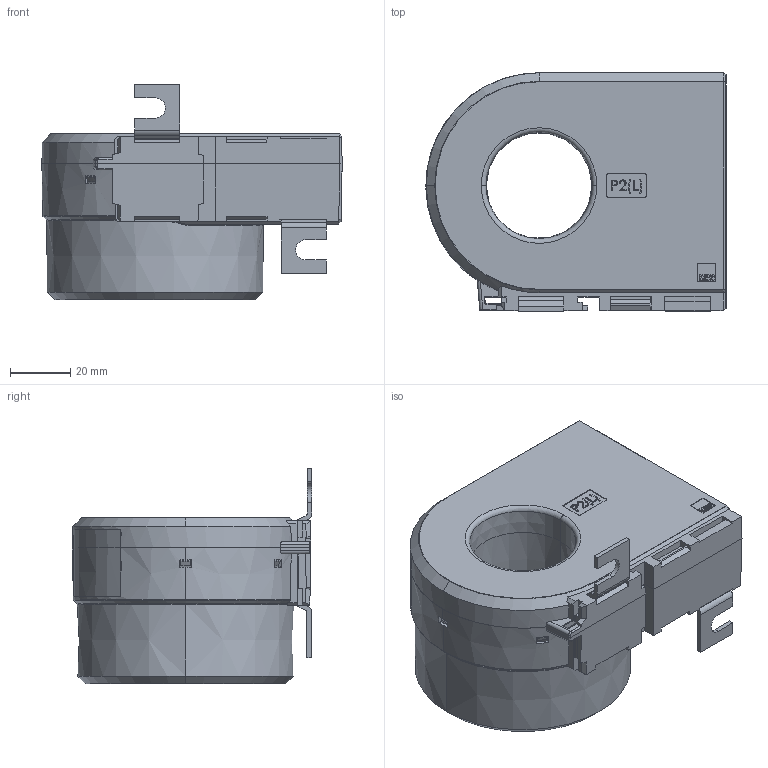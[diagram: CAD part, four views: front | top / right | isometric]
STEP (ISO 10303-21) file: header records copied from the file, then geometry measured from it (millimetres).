
FILE_DESCRIPTION (( 'STEP AP214' ), '1' );
FILE_NAME ('RCMB35-500.STEP', '2013-10-28T14:01:49', ( 'User' ), ( 'Bender' ), 'SwSTEP 2.0', 'SolidWorks 2013', '' );
FILE_SCHEMA (( 'AUTOMOTIVE_DESIGN' ));
Length unit declared in the file: millimetre
Products named in the file (4): Schraubfuß-Blech; W35_OT_8polig_doppel_040205; W35_UT_8polig_040205.; RCMB35-500
Assembly tree (4 placements, depth 2):
  RCMB35-500
    W35_UT_8polig_040205.
    W35_OT_8polig_doppel_040205
    Schraubfuß-Blech  x2
Bounding box: 99.5 x 79.24 x 71.35 mm (x, y, z)
Volume: 66030.7 mm3; surface area: 74007 mm2
Topology: 4 solids, 4 shells, 1158 faces, 3178 edges, 2051 vertices
Faces by surface type: plane 700, cylinder 234, bspline 141, cone 51, torus 21, sphere 11
Entity records: 40280 total; most frequent: CARTESIAN_POINT 12920, ORIENTED_EDGE 6240, DIRECTION 4920, EDGE_CURVE 3120, LINE 2142, VECTOR 2142, VERTEX_POINT 2019, AXIS2_PLACEMENT_3D 1389
